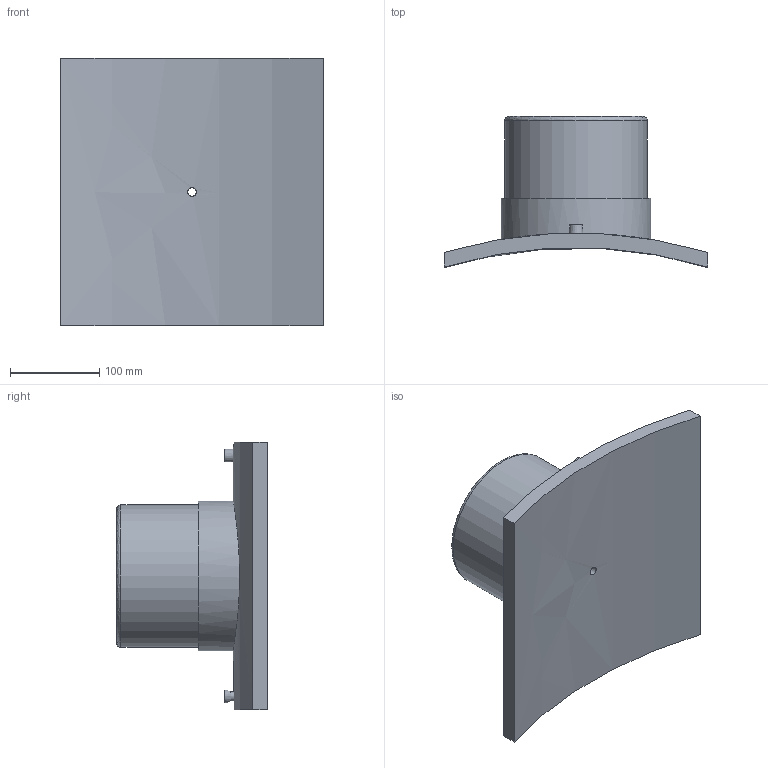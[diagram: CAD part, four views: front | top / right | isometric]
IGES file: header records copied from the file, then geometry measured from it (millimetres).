
Global section: file name: 4958031000160T.ipt; native system: Autodesk Inventor 2019; preprocessor: unknown; author: KIM; date: 20210225.094947; units: millimetre
Bounding box: 295 x 169.25 x 300 mm (x, y, z)
Volume: 2494378.9 mm3; surface area: 327153.7 mm2
Topology: 2 solids, 2 shells, 29 faces, 54 edges, 38 vertices
Faces by surface type: plane 13, revolution 7, cylinder 7, cone 2
Full cylindrical faces by diameter (mm): 4 x2, 16 x1, 160 x1, 168 x1
